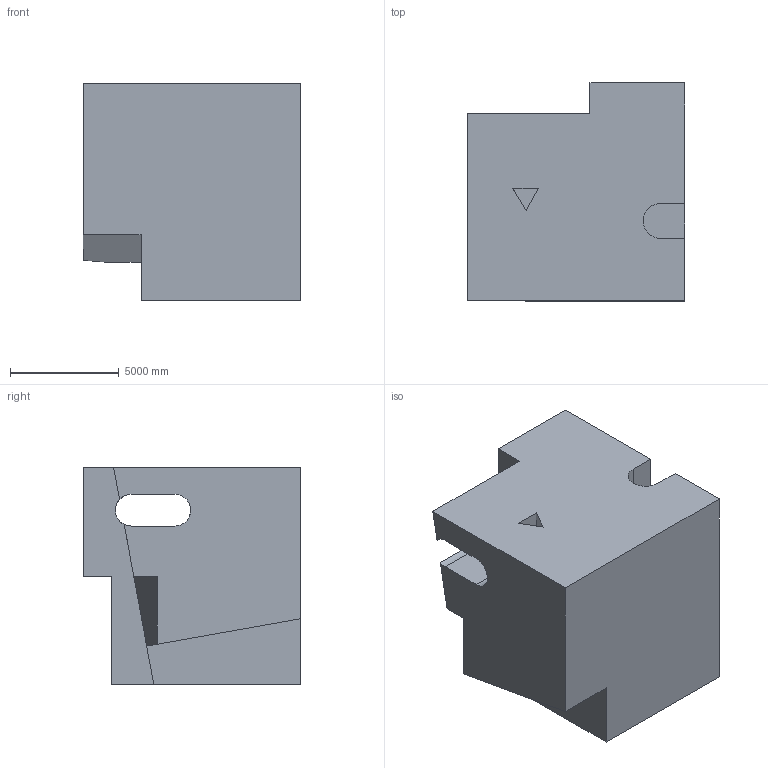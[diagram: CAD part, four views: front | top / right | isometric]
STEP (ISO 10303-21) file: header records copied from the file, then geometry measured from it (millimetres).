
FILE_DESCRIPTION (( 'STEP AP203' ), '1' );
FILE_NAME ('1566.STEP', '2022-08-18T15:50:24', ( 'user' ), ( '' ), 'SwSTEP 2.0', 'SolidWorks 2021', '' );
FILE_SCHEMA (( 'CONFIG_CONTROL_DESIGN' ));
Length unit declared in the file: centimetre
Products named in the file (1): 1566
Bounding box: 10000 x 10000 x 10000 mm (x, y, z)
Volume: 716083053347 mm3; surface area: 630031771.6 mm2
Topology: 1 solids, 1 shells, 28 faces, 81 edges, 54 vertices
Faces by surface type: plane 25, cylinder 3
Entity records: 998 total; most frequent: CARTESIAN_POINT 170, ORIENTED_EDGE 162, DIRECTION 145, EDGE_CURVE 81, LINE 71, VECTOR 71, VERTEX_POINT 54, AXIS2_PLACEMENT_3D 37
